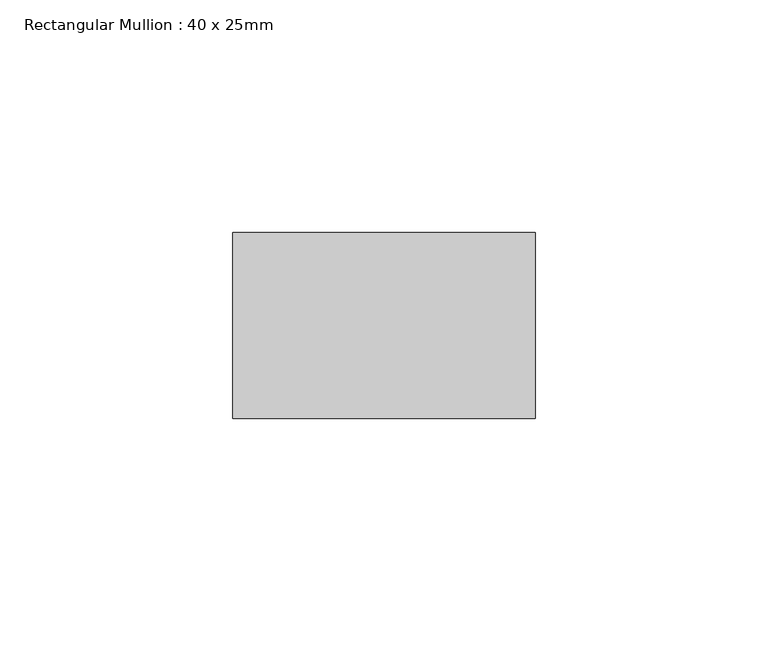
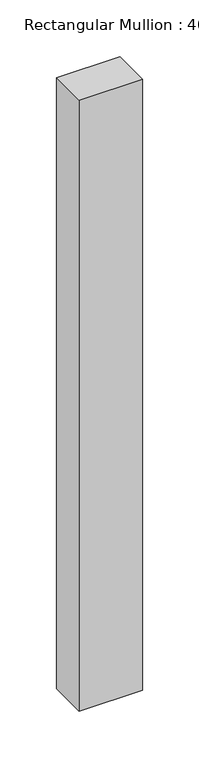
"""IFC4 building model written with IfcOpenShell, lengths in millimetres: member geometry, Rectangular Mullion : 40 x 25mm."""

from ifc_helpers import new_model, si_unit, frame, origin, place, context, project, spatial, polyline, outline, extrude, source, transform, mapped, element, save


def rectangular_mullion_40_x_25mm_e05c959a(model_context):
    return source(origin(), model_context, "Body", "SweptSolid", [
        extrude(outline(polyline([(0.0, -20.0), (0.0, -60.0), (-65.0, -60.0), (-65.0, -20.0), (0.0, -20.0)])), frame((0.0, 0.0, -660.0), z_axis=(0.0, 0.0, 1.0), x_axis=(1.0, 0.0, 0.0)), (0.0, 0.0, 1.0), 660.0),
    ])


if __name__ == "__main__":
    model = new_model("IFC4")
    model_context = context("Model", 3, world=origin())
    ifc_project = project(units=[si_unit("LENGTHUNIT", "METRE", prefix="MILLI")], contexts=[model_context])
    site = spatial("IfcSite", under=ifc_project)
    building = spatial("IfcBuilding", under=site)
    placement = place(None, origin())
    rectangular_mullion_40_x_25mm_shape = rectangular_mullion_40_x_25mm_e05c959a(model_context)
    element("IfcMember", 1, ObjectType="Rectangular Mullion : 40 x 25mm", at=placement, inside=building, context=model_context, shape_type="MappedRepresentation", body=[
        mapped(rectangular_mullion_40_x_25mm_shape, transform((0.0, 0.0, 0.0), x_axis=(1.0, 0.0, 0.0), y_axis=(0.0, 1.0, 0.0), z_axis=(0.0, 0.0, 1.0))),
    ])
    save(model, "model.ifc")
